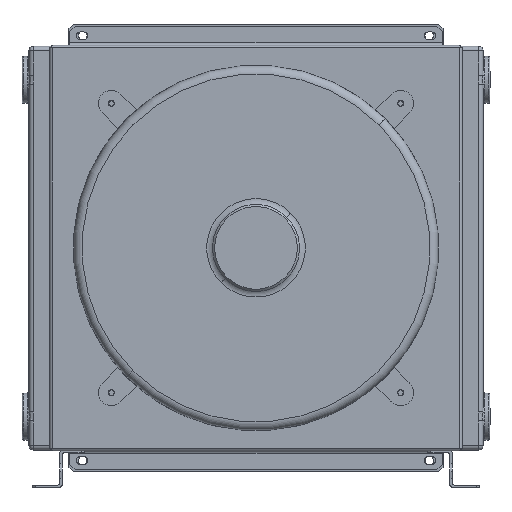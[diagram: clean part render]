
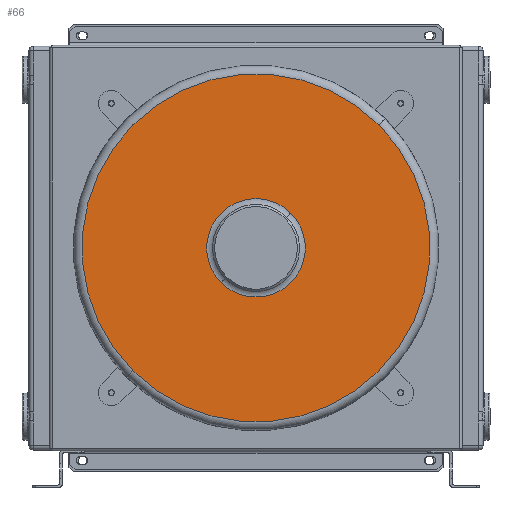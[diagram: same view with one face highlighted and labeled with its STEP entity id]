
A CAD part, top view. The second image highlights one B-rep face of the part: STEP entity #66.
In plain terms, the highlighted planar face has unit normal (0, 0, 1).
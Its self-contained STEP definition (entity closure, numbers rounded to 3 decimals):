
#66 = ADVANCED_FACE ( 'NONE', ( #1380, #1013 ), #526, .T. ) ;
#526 = PLANE ( 'NONE',  #11610 ) ;
#958 = CARTESIAN_POINT ( 'NONE',  ( 0., 0., 80. ) ) ;
#1013 = FACE_OUTER_BOUND ( 'NONE', #12522, .T. ) ;
#1380 = FACE_BOUND ( 'NONE', #8934, .T. ) ;
#2155 = DIRECTION ( 'NONE',  ( 1., 0., 0. ) ) ;
#3166 = CARTESIAN_POINT ( 'NONE',  ( 0., 0., 80. ) ) ;
#3331 = ORIENTED_EDGE ( 'NONE', *, *, #13555, .T. ) ;
#3563 = AXIS2_PLACEMENT_3D ( 'NONE', #12271, #5363, #13424 ) ;
#3664 = CARTESIAN_POINT ( 'NONE',  ( 0., 0., 80. ) ) ;
#3807 = DIRECTION ( 'NONE',  ( 0., 0., 1. ) ) ;
#4314 = DIRECTION ( 'NONE',  ( 1., 0., 0. ) ) ;
#4392 = ORIENTED_EDGE ( 'NONE', *, *, #8382, .T. ) ;
#4829 = DIRECTION ( 'NONE',  ( 1., 0., 0. ) ) ;
#5125 = VERTEX_POINT ( 'NONE', #14332 ) ;
#5161 = DIRECTION ( 'NONE',  ( 1., 0., 0. ) ) ;
#5363 = DIRECTION ( 'NONE',  ( 0., 0., -1. ) ) ;
#5552 = CARTESIAN_POINT ( 'NONE',  ( -200., 0., 80. ) ) ;
#5857 = CARTESIAN_POINT ( 'NONE',  ( 200., 0., 80. ) ) ;
#5886 = ORIENTED_EDGE ( 'NONE', *, *, #10398, .T. ) ;
#8334 = AXIS2_PLACEMENT_3D ( 'NONE', #958, #9075, #2155 ) ;
#8353 = VERTEX_POINT ( 'NONE', #5552 ) ;
#8382 = EDGE_CURVE ( 'NONE', #8353, #11785, #8628, .T. ) ;
#8628 = CIRCLE ( 'NONE', #8334, 200. ) ;
#8934 = EDGE_LOOP ( 'NONE', ( #3331, #11553 ) ) ;
#9075 = DIRECTION ( 'NONE',  ( 0., 0., 1. ) ) ;
#10398 = EDGE_CURVE ( 'NONE', #11785, #8353, #12715, .T. ) ;
#10682 = CARTESIAN_POINT ( 'NONE',  ( 0., 0., 80. ) ) ;
#11148 = AXIS2_PLACEMENT_3D ( 'NONE', #3166, #11233, #4314 ) ;
#11233 = DIRECTION ( 'NONE',  ( 0., 0., -1. ) ) ;
#11516 = CARTESIAN_POINT ( 'NONE',  ( 56.614, 0., 80. ) ) ;
#11553 = ORIENTED_EDGE ( 'NONE', *, *, #11558, .T. ) ;
#11558 = EDGE_CURVE ( 'NONE', #5125, #13768, #12516, .T. ) ;
#11610 = AXIS2_PLACEMENT_3D ( 'NONE', #10682, #3807, #5161 ) ;
#11745 = DIRECTION ( 'NONE',  ( 0., 0., 1. ) ) ;
#11785 = VERTEX_POINT ( 'NONE', #5857 ) ;
#12271 = CARTESIAN_POINT ( 'NONE',  ( 0., 0., 80. ) ) ;
#12516 = CIRCLE ( 'NONE', #11148, 56.614 ) ;
#12522 = EDGE_LOOP ( 'NONE', ( #5886, #4392 ) ) ;
#12585 = AXIS2_PLACEMENT_3D ( 'NONE', #3664, #11745, #4829 ) ;
#12715 = CIRCLE ( 'NONE', #12585, 200. ) ;
#13424 = DIRECTION ( 'NONE',  ( 1., 0., 0. ) ) ;
#13555 = EDGE_CURVE ( 'NONE', #13768, #5125, #13856, .T. ) ;
#13768 = VERTEX_POINT ( 'NONE', #11516 ) ;
#13856 = CIRCLE ( 'NONE', #3563, 56.614 ) ;
#14332 = CARTESIAN_POINT ( 'NONE',  ( -56.614, 0., 80. ) ) ;
